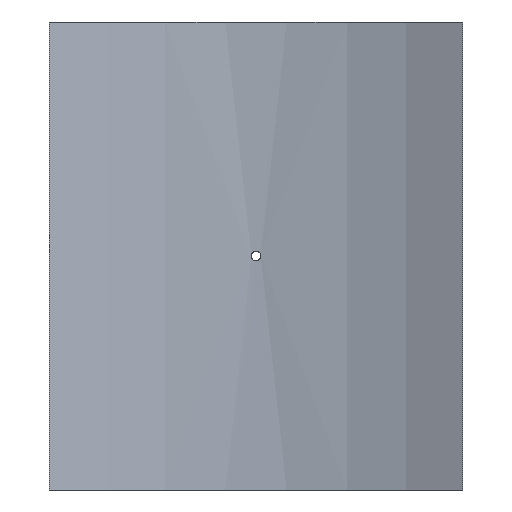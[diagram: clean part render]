
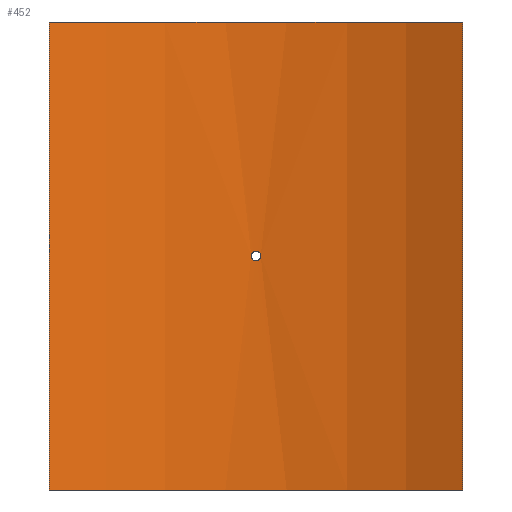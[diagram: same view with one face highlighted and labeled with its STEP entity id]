
A CAD part, front view. The second image highlights one B-rep face of the part: STEP entity #452.
In plain terms, the highlighted cylindrical face has radius 450 mm (diameter 900 mm), a partial arc.
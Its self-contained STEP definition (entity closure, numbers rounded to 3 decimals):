
#19=B_SPLINE_CURVE_WITH_KNOTS('',3,(#788,#789,#790,#791,#792,#793,#794,
#795,#796,#797,#798,#799,#800,#801,#802,#803,#804,#805,#806,#807,#808,#809,
#810,#811,#812,#813,#814,#815,#816,#817,#818,#819,#820,#821),
 .UNSPECIFIED.,.T.,.F.,(4,2,2,2,2,2,2,2,2,2,2,2,2,2,2,2,4),(0.,0.181,
0.362,0.542,0.723,0.904,
1.085,1.266,1.446,1.627,1.808,
1.989,2.17,2.351,2.531,2.712,
2.893),.UNSPECIFIED.);
#43=LINE('',#1065,#62);
#44=LINE('',#1068,#63);
#62=VECTOR('',#661,10.);
#63=VECTOR('',#664,10.);
#76=CYLINDRICAL_SURFACE('',#530,450.);
#88=FACE_BOUND('',#167,.T.);
#127=FACE_OUTER_BOUND('',#166,.T.);
#166=EDGE_LOOP('',(#405,#406,#407,#408));
#167=EDGE_LOOP('',(#409));
#201=CIRCLE('',#529,450.);
#202=CIRCLE('',#531,450.);
#219=VERTEX_POINT('',#786);
#242=VERTEX_POINT('',#1058);
#243=VERTEX_POINT('',#1060);
#244=VERTEX_POINT('',#1064);
#245=VERTEX_POINT('',#1066);
#267=EDGE_CURVE('',#219,#219,#19,.T.);
#299=EDGE_CURVE('',#242,#243,#201,.T.);
#301=EDGE_CURVE('',#244,#242,#43,.T.);
#302=EDGE_CURVE('',#245,#244,#202,.T.);
#303=EDGE_CURVE('',#245,#243,#44,.T.);
#405=ORIENTED_EDGE('',*,*,#301,.F.);
#406=ORIENTED_EDGE('',*,*,#302,.F.);
#407=ORIENTED_EDGE('',*,*,#303,.T.);
#408=ORIENTED_EDGE('',*,*,#299,.F.);
#409=ORIENTED_EDGE('',*,*,#267,.T.);
#452=ADVANCED_FACE('',(#127,#88),#76,.F.);
#529=AXIS2_PLACEMENT_3D('',#1061,#656,#657);
#530=AXIS2_PLACEMENT_3D('',#1063,#659,#660);
#531=AXIS2_PLACEMENT_3D('',#1067,#662,#663);
#656=DIRECTION('center_axis',(0.,0.,1.));
#657=DIRECTION('ref_axis',(0.461,0.887,0.));
#659=DIRECTION('center_axis',(0.,0.,1.));
#660=DIRECTION('ref_axis',(0.461,0.887,0.));
#661=DIRECTION('',(0.,0.,-1.));
#662=DIRECTION('center_axis',(0.,0.,-1.));
#663=DIRECTION('ref_axis',(0.461,0.887,0.));
#664=DIRECTION('',(0.,0.,-1.));
#786=CARTESIAN_POINT('',(4.8,449.974,0.));
#788=CARTESIAN_POINT('Ctrl Pts',(4.8,449.974,0.));
#789=CARTESIAN_POINT('Ctrl Pts',(4.8,449.974,-0.603));
#790=CARTESIAN_POINT('Ctrl Pts',(4.68,449.976,-1.246));
#791=CARTESIAN_POINT('Ctrl Pts',(4.19,449.981,-2.428));
#792=CARTESIAN_POINT('Ctrl Pts',(3.82,449.984,-2.968));
#793=CARTESIAN_POINT('Ctrl Pts',(2.968,449.99,-3.82));
#794=CARTESIAN_POINT('Ctrl Pts',(2.428,449.994,-4.19));
#795=CARTESIAN_POINT('Ctrl Pts',(1.246,449.999,-4.68));
#796=CARTESIAN_POINT('Ctrl Pts',(0.603,450.,-4.8));
#797=CARTESIAN_POINT('Ctrl Pts',(-0.603,450.,-4.8));
#798=CARTESIAN_POINT('Ctrl Pts',(-1.246,449.999,-4.68));
#799=CARTESIAN_POINT('Ctrl Pts',(-2.428,449.994,-4.19));
#800=CARTESIAN_POINT('Ctrl Pts',(-2.968,449.99,-3.82));
#801=CARTESIAN_POINT('Ctrl Pts',(-3.82,449.984,-2.968));
#802=CARTESIAN_POINT('Ctrl Pts',(-4.19,449.981,-2.428));
#803=CARTESIAN_POINT('Ctrl Pts',(-4.68,449.976,-1.246));
#804=CARTESIAN_POINT('Ctrl Pts',(-4.8,449.974,-0.603));
#805=CARTESIAN_POINT('Ctrl Pts',(-4.8,449.974,0.603));
#806=CARTESIAN_POINT('Ctrl Pts',(-4.68,449.976,1.246));
#807=CARTESIAN_POINT('Ctrl Pts',(-4.19,449.981,2.428));
#808=CARTESIAN_POINT('Ctrl Pts',(-3.82,449.984,2.968));
#809=CARTESIAN_POINT('Ctrl Pts',(-2.968,449.99,3.82));
#810=CARTESIAN_POINT('Ctrl Pts',(-2.428,449.994,4.19));
#811=CARTESIAN_POINT('Ctrl Pts',(-1.246,449.999,4.68));
#812=CARTESIAN_POINT('Ctrl Pts',(-0.603,450.,4.8));
#813=CARTESIAN_POINT('Ctrl Pts',(0.603,450.,4.8));
#814=CARTESIAN_POINT('Ctrl Pts',(1.246,449.999,4.68));
#815=CARTESIAN_POINT('Ctrl Pts',(2.428,449.994,4.19));
#816=CARTESIAN_POINT('Ctrl Pts',(2.968,449.99,3.82));
#817=CARTESIAN_POINT('Ctrl Pts',(3.82,449.984,2.968));
#818=CARTESIAN_POINT('Ctrl Pts',(4.19,449.981,2.428));
#819=CARTESIAN_POINT('Ctrl Pts',(4.68,449.976,1.246));
#820=CARTESIAN_POINT('Ctrl Pts',(4.8,449.974,0.603));
#821=CARTESIAN_POINT('Ctrl Pts',(4.8,449.974,0.));
#1058=CARTESIAN_POINT('',(207.5,399.304,-235.));
#1060=CARTESIAN_POINT('',(-207.5,399.304,-235.));
#1061=CARTESIAN_POINT('Origin',(0.,0.,
-235.));
#1063=CARTESIAN_POINT('Origin',(0.,0.,
0.));
#1064=CARTESIAN_POINT('',(207.5,399.304,235.));
#1065=CARTESIAN_POINT('',(207.5,399.304,0.));
#1066=CARTESIAN_POINT('',(-207.5,399.304,235.));
#1067=CARTESIAN_POINT('Origin',(0.,0.,
235.));
#1068=CARTESIAN_POINT('',(-207.5,399.304,0.));
